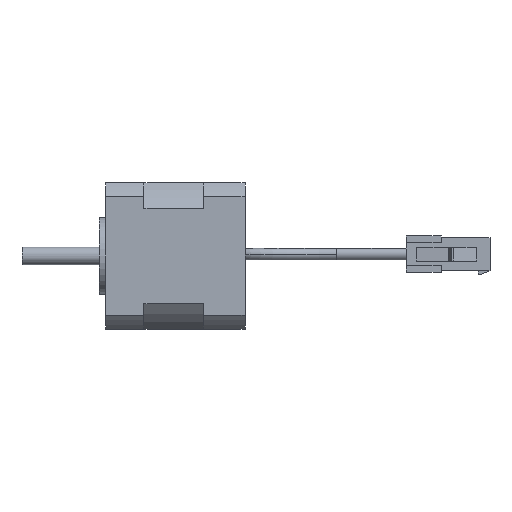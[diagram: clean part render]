
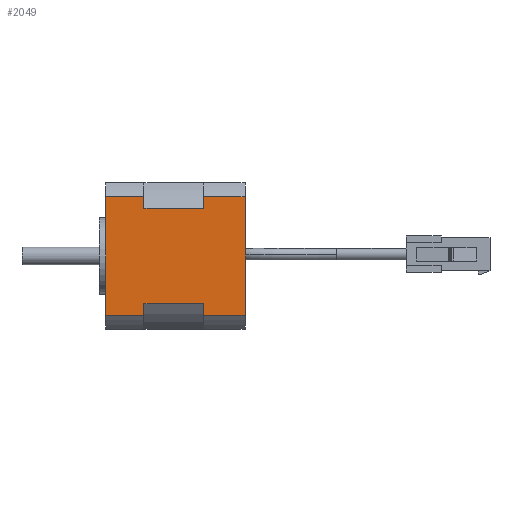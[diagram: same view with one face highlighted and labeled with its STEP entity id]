
A CAD part, front view. The second image highlights one B-rep face of the part: STEP entity #2049.
In plain terms, the highlighted planar face has unit normal (0, -1, 0).
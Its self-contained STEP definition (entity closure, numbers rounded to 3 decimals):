
#17 = ORIENTED_EDGE ( 'NONE', *, *, #885, .F. ) ;
#88 = VERTEX_POINT ( 'NONE', #4562 ) ;
#275 = CARTESIAN_POINT ( 'NONE',  ( 37.971, 0., 0. ) ) ;
#489 = VERTEX_POINT ( 'NONE', #1300 ) ;
#506 = LINE ( 'NONE', #1659, #3527 ) ;
#715 = VERTEX_POINT ( 'NONE', #6849 ) ;
#802 = LINE ( 'NONE', #3046, #6792 ) ;
#873 = LINE ( 'NONE', #1000, #7181 ) ;
#885 = EDGE_CURVE ( 'NONE', #7105, #3841, #2602, .T. ) ;
#924 = CARTESIAN_POINT ( 'NONE',  ( 4.029, 0., 0. ) ) ;
#964 = DIRECTION ( 'NONE',  ( 1., 0., 0. ) ) ;
#1000 = CARTESIAN_POINT ( 'NONE',  ( 4.029, 0., 12. ) ) ;
#1003 = FACE_OUTER_BOUND ( 'NONE', #5783, .T. ) ;
#1006 = CARTESIAN_POINT ( 'NONE',  ( 37.971, 0., 40. ) ) ;
#1046 = EDGE_CURVE ( 'NONE', #88, #3841, #1094, .T. ) ;
#1094 = LINE ( 'NONE', #6983, #1276 ) ;
#1200 = DIRECTION ( 'NONE',  ( 0., 0., -1. ) ) ;
#1244 = CARTESIAN_POINT ( 'NONE',  ( 37.971, 0., 40. ) ) ;
#1276 = VECTOR ( 'NONE', #7048, 1000. ) ;
#1300 = CARTESIAN_POINT ( 'NONE',  ( 37.971, 0., 29. ) ) ;
#1347 = DIRECTION ( 'NONE',  ( 0., 0., -1. ) ) ;
#1390 = EDGE_CURVE ( 'NONE', #4550, #88, #6587, .T. ) ;
#1397 = CARTESIAN_POINT ( 'NONE',  ( 4.029, 0., 40. ) ) ;
#1434 = VECTOR ( 'NONE', #1456, 1000. ) ;
#1456 = DIRECTION ( 'NONE',  ( 0., 0., -1. ) ) ;
#1580 = AXIS2_PLACEMENT_3D ( 'NONE', #6965, #6880, #6804 ) ;
#1592 = EDGE_CURVE ( 'NONE', #4550, #5095, #802, .T. ) ;
#1627 = DIRECTION ( 'NONE',  ( 1., 0., 0. ) ) ;
#1659 = CARTESIAN_POINT ( 'NONE',  ( 4.029, 0., 0. ) ) ;
#1746 = EDGE_CURVE ( 'NONE', #6556, #489, #6094, .T. ) ;
#1888 = EDGE_CURVE ( 'NONE', #5095, #489, #6700, .T. ) ;
#1909 = ORIENTED_EDGE ( 'NONE', *, *, #1390, .T. ) ;
#1928 = VECTOR ( 'NONE', #7186, 1000. ) ;
#2027 = DIRECTION ( 'NONE',  ( 1., 0., 0. ) ) ;
#2049 = ADVANCED_FACE ( 'NONE', ( #1003 ), #6933, .F. ) ;
#2059 = ORIENTED_EDGE ( 'NONE', *, *, #1746, .T. ) ;
#2098 = CARTESIAN_POINT ( 'NONE',  ( 4.029, 0., 29. ) ) ;
#2204 = CARTESIAN_POINT ( 'NONE',  ( 4.029, 0., 40. ) ) ;
#2221 = DIRECTION ( 'NONE',  ( 0., 0., 1. ) ) ;
#2228 = VECTOR ( 'NONE', #5931, 1000. ) ;
#2266 = EDGE_CURVE ( 'NONE', #6556, #4644, #2510, .T. ) ;
#2297 = ORIENTED_EDGE ( 'NONE', *, *, #2512, .F. ) ;
#2319 = CARTESIAN_POINT ( 'NONE',  ( 7.234, 0., 12. ) ) ;
#2327 = VECTOR ( 'NONE', #1347, 1000. ) ;
#2362 = EDGE_CURVE ( 'NONE', #4644, #7429, #3525, .T. ) ;
#2510 = LINE ( 'NONE', #5589, #2327 ) ;
#2512 = EDGE_CURVE ( 'NONE', #7429, #6255, #5308, .T. ) ;
#2602 = LINE ( 'NONE', #2319, #7118 ) ;
#2631 = ORIENTED_EDGE ( 'NONE', *, *, #2362, .F. ) ;
#2867 = LINE ( 'NONE', #1397, #1434 ) ;
#2963 = EDGE_CURVE ( 'NONE', #5455, #6255, #506, .T. ) ;
#3046 = CARTESIAN_POINT ( 'NONE',  ( 4.029, 0., 40. ) ) ;
#3053 = EDGE_CURVE ( 'NONE', #715, #7105, #873, .T. ) ;
#3105 = DIRECTION ( 'NONE',  ( 1., 0., 0. ) ) ;
#3295 = CARTESIAN_POINT ( 'NONE',  ( 37.971, 0., 12. ) ) ;
#3408 = EDGE_CURVE ( 'NONE', #715, #5455, #2867, .T. ) ;
#3525 = LINE ( 'NONE', #7355, #1928 ) ;
#3527 = VECTOR ( 'NONE', #1627, 1000. ) ;
#3600 = VECTOR ( 'NONE', #4830, 1000. ) ;
#3841 = VERTEX_POINT ( 'NONE', #4060 ) ;
#3911 = ORIENTED_EDGE ( 'NONE', *, *, #1592, .F. ) ;
#4060 = CARTESIAN_POINT ( 'NONE',  ( 7.234, 0., 29. ) ) ;
#4550 = VERTEX_POINT ( 'NONE', #2204 ) ;
#4562 = CARTESIAN_POINT ( 'NONE',  ( 4.029, 0., 29. ) ) ;
#4579 = CARTESIAN_POINT ( 'NONE',  ( 34.766, 0., 29. ) ) ;
#4623 = VECTOR ( 'NONE', #2027, 1000. ) ;
#4644 = VERTEX_POINT ( 'NONE', #4693 ) ;
#4647 = ORIENTED_EDGE ( 'NONE', *, *, #1888, .F. ) ;
#4693 = CARTESIAN_POINT ( 'NONE',  ( 34.766, 0., 12. ) ) ;
#4830 = DIRECTION ( 'NONE',  ( 0., 0., -1. ) ) ;
#4856 = CARTESIAN_POINT ( 'NONE',  ( 4.029, 0., 40. ) ) ;
#5062 = VECTOR ( 'NONE', #1200, 1000. ) ;
#5095 = VERTEX_POINT ( 'NONE', #1244 ) ;
#5202 = ORIENTED_EDGE ( 'NONE', *, *, #2266, .F. ) ;
#5308 = LINE ( 'NONE', #6115, #2228 ) ;
#5455 = VERTEX_POINT ( 'NONE', #924 ) ;
#5589 = CARTESIAN_POINT ( 'NONE',  ( 34.766, 0., 12. ) ) ;
#5696 = ORIENTED_EDGE ( 'NONE', *, *, #3408, .T. ) ;
#5783 = EDGE_LOOP ( 'NONE', ( #6219, #5696, #7482, #2297, #2631, #5202, #2059, #4647, #3911, #1909, #6234, #17 ) ) ;
#5931 = DIRECTION ( 'NONE',  ( 0., 0., -1. ) ) ;
#6094 = LINE ( 'NONE', #2098, #4623 ) ;
#6115 = CARTESIAN_POINT ( 'NONE',  ( 37.971, 0., 40. ) ) ;
#6219 = ORIENTED_EDGE ( 'NONE', *, *, #3053, .F. ) ;
#6234 = ORIENTED_EDGE ( 'NONE', *, *, #1046, .T. ) ;
#6255 = VERTEX_POINT ( 'NONE', #275 ) ;
#6355 = CARTESIAN_POINT ( 'NONE',  ( 7.234, 0., 12. ) ) ;
#6556 = VERTEX_POINT ( 'NONE', #4579 ) ;
#6587 = LINE ( 'NONE', #4856, #3600 ) ;
#6700 = LINE ( 'NONE', #1006, #5062 ) ;
#6792 = VECTOR ( 'NONE', #3105, 1000. ) ;
#6804 = DIRECTION ( 'NONE',  ( -1., 0., 0. ) ) ;
#6849 = CARTESIAN_POINT ( 'NONE',  ( 4.029, 0., 12. ) ) ;
#6880 = DIRECTION ( 'NONE',  ( 0., 1., 0. ) ) ;
#6933 = PLANE ( 'NONE',  #1580 ) ;
#6965 = CARTESIAN_POINT ( 'NONE',  ( 4.029, 0., 40. ) ) ;
#6983 = CARTESIAN_POINT ( 'NONE',  ( 4.029, 0., 29. ) ) ;
#7048 = DIRECTION ( 'NONE',  ( 1., 0., 0. ) ) ;
#7105 = VERTEX_POINT ( 'NONE', #6355 ) ;
#7118 = VECTOR ( 'NONE', #2221, 1000. ) ;
#7181 = VECTOR ( 'NONE', #964, 1000. ) ;
#7186 = DIRECTION ( 'NONE',  ( 1., 0., 0. ) ) ;
#7355 = CARTESIAN_POINT ( 'NONE',  ( 4.029, 0., 12. ) ) ;
#7429 = VERTEX_POINT ( 'NONE', #3295 ) ;
#7482 = ORIENTED_EDGE ( 'NONE', *, *, #2963, .T. ) ;
